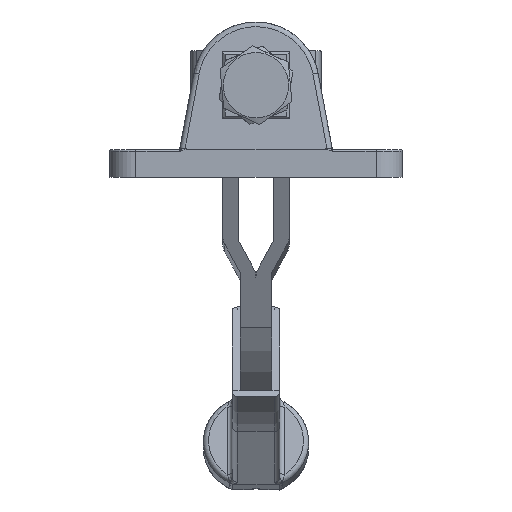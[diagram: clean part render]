
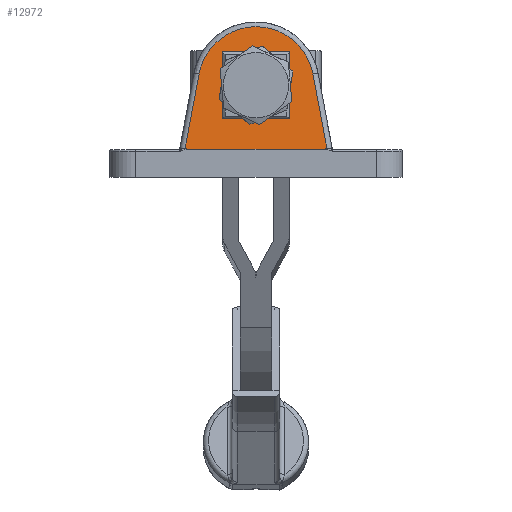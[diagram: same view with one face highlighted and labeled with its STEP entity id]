
A CAD part, left-side view. The second image highlights one B-rep face of the part: STEP entity #12972.
In plain terms, the highlighted planar face has unit normal (-0.996, 0, 0.087).
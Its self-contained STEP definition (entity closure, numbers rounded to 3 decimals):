
#480=FACE_BOUND('',#2201,.T.);
#735=PLANE('',#13909);
#1434=FACE_OUTER_BOUND('',#2200,.T.);
#2200=EDGE_LOOP('',(#11826,#11827,#11828,#11829,#11830,#11831,#11832,#11833));
#2201=EDGE_LOOP('',(#11834,#11835,#11836,#11837));
#3164=B_SPLINE_CURVE_WITH_KNOTS('',3,(#57082,#57083,#57084,#57085,#57086,
#57087,#57088,#57089,#57090,#57091,#57092,#57093,#57094,#57095),
 .UNSPECIFIED.,.F.,.F.,(4,2,2,2,2,2,4),(-0.02,-0.013,
-0.006,-0.003,-0.001,-0.001,
0.),.UNSPECIFIED.);
#3165=B_SPLINE_CURVE_WITH_KNOTS('',3,(#57099,#57100,#57101,#57102,#57103,
#57104,#57105,#57106,#57107,#57108,#57109,#57110,#57111,#57112),
 .UNSPECIFIED.,.F.,.F.,(4,2,2,2,2,2,4),(-0.044,-0.043,
-0.041,-0.038,-0.03,-0.016,
0.),.UNSPECIFIED.);
#3166=B_SPLINE_CURVE_WITH_KNOTS('',3,(#57114,#57115,#57116,#57117,#57118,
#57119,#57120),.UNSPECIFIED.,.F.,.F.,(4,3,4),(0.001,0.001,
0.001),.UNSPECIFIED.);
#3167=B_SPLINE_CURVE_WITH_KNOTS('',3,(#57124,#57125,#57126,#57127,#57128,
#57129,#57130,#57131,#57132,#57133,#57134,#57135,#57136,#57137,#57138,#57139,
#57140,#57141,#57142,#57143,#57144,#57145,#57146,#57147,#57148),
 .UNSPECIFIED.,.F.,.F.,(4,3,3,3,3,3,3,3,4),(1.756,2.103,
2.449,2.795,3.142,3.488,3.834,
4.181,4.527),.UNSPECIFIED.);
#3168=B_SPLINE_CURVE_WITH_KNOTS('',3,(#57151,#57152,#57153,#57154,#57155,
#57156,#57157),.UNSPECIFIED.,.F.,.F.,(4,3,4),(0.,0.,
0.),.UNSPECIFIED.);
#4118=LINE('',#57097,#5079);
#4119=LINE('',#57122,#5080);
#4120=LINE('',#57150,#5081);
#4121=LINE('',#57160,#5082);
#4122=LINE('',#57162,#5083);
#4123=LINE('',#57164,#5084);
#4124=LINE('',#57165,#5085);
#5079=VECTOR('',#16323,1000.);
#5080=VECTOR('',#16324,1000.);
#5081=VECTOR('',#16325,1000.);
#5082=VECTOR('',#16326,1000.);
#5083=VECTOR('',#16327,1000.);
#5084=VECTOR('',#16328,1000.);
#5085=VECTOR('',#16329,1000.);
#6333=VERTEX_POINT('',#57080);
#6334=VERTEX_POINT('',#57081);
#6335=VERTEX_POINT('',#57096);
#6336=VERTEX_POINT('',#57098);
#6337=VERTEX_POINT('',#57113);
#6338=VERTEX_POINT('',#57121);
#6339=VERTEX_POINT('',#57123);
#6340=VERTEX_POINT('',#57149);
#6341=VERTEX_POINT('',#57158);
#6342=VERTEX_POINT('',#57159);
#6343=VERTEX_POINT('',#57161);
#6344=VERTEX_POINT('',#57163);
#8193=EDGE_CURVE('',#6333,#6334,#3164,.T.);
#8194=EDGE_CURVE('',#6334,#6335,#4118,.T.);
#8195=EDGE_CURVE('',#6335,#6336,#3165,.T.);
#8196=EDGE_CURVE('',#6336,#6337,#3166,.T.);
#8197=EDGE_CURVE('',#6337,#6338,#4119,.T.);
#8198=EDGE_CURVE('',#6338,#6339,#3167,.T.);
#8199=EDGE_CURVE('',#6339,#6340,#4120,.T.);
#8200=EDGE_CURVE('',#6340,#6333,#3168,.T.);
#8201=EDGE_CURVE('',#6341,#6342,#4121,.T.);
#8202=EDGE_CURVE('',#6342,#6343,#4122,.T.);
#8203=EDGE_CURVE('',#6343,#6344,#4123,.T.);
#8204=EDGE_CURVE('',#6344,#6341,#4124,.T.);
#11826=ORIENTED_EDGE('',*,*,#8193,.T.);
#11827=ORIENTED_EDGE('',*,*,#8194,.T.);
#11828=ORIENTED_EDGE('',*,*,#8195,.T.);
#11829=ORIENTED_EDGE('',*,*,#8196,.T.);
#11830=ORIENTED_EDGE('',*,*,#8197,.T.);
#11831=ORIENTED_EDGE('',*,*,#8198,.T.);
#11832=ORIENTED_EDGE('',*,*,#8199,.T.);
#11833=ORIENTED_EDGE('',*,*,#8200,.T.);
#11834=ORIENTED_EDGE('',*,*,#8201,.T.);
#11835=ORIENTED_EDGE('',*,*,#8202,.T.);
#11836=ORIENTED_EDGE('',*,*,#8203,.T.);
#11837=ORIENTED_EDGE('',*,*,#8204,.T.);
#12972=ADVANCED_FACE('',(#1434,#480),#735,.F.);
#13909=AXIS2_PLACEMENT_3D('',#57079,#16321,#16322);
#16321=DIRECTION('center_axis',(0.996,0.,-0.087));
#16322=DIRECTION('ref_axis',(-0.087,0.,-0.996));
#16323=DIRECTION('',(0.,-1.,0.));
#16324=DIRECTION('',(0.086,0.184,0.979));
#16325=DIRECTION('',(-0.086,0.184,-0.979));
#16326=DIRECTION('',(0.087,0.,0.996));
#16327=DIRECTION('',(0.,-1.,0.));
#16328=DIRECTION('',(-0.087,0.,-0.996));
#16329=DIRECTION('',(0.,1.,0.));
#57079=CARTESIAN_POINT('Origin',(0.,55.6,5.3));
#57080=CARTESIAN_POINT('',(0.018,41.114,5.504));
#57081=CARTESIAN_POINT('',(0.001,40.922,5.313));
#57082=CARTESIAN_POINT('Ctrl Pts',(0.018,41.114,5.504));
#57083=CARTESIAN_POINT('Ctrl Pts',(0.016,41.066,
5.48));
#57084=CARTESIAN_POINT('Ctrl Pts',(0.013,41.026,
5.448));
#57085=CARTESIAN_POINT('Ctrl Pts',(0.009,40.979,
5.405));
#57086=CARTESIAN_POINT('Ctrl Pts',(0.007,40.961,
5.386));
#57087=CARTESIAN_POINT('Ctrl Pts',(0.005,40.94,
5.36));
#57088=CARTESIAN_POINT('Ctrl Pts',(0.004,40.932,
5.349));
#57089=CARTESIAN_POINT('Ctrl Pts',(0.003,40.925,
5.334));
#57090=CARTESIAN_POINT('Ctrl Pts',(0.003,40.923,
5.33));
#57091=CARTESIAN_POINT('Ctrl Pts',(0.002,40.921,
5.323));
#57092=CARTESIAN_POINT('Ctrl Pts',(0.002,40.921,
5.321));
#57093=CARTESIAN_POINT('Ctrl Pts',(0.001,40.921,
5.317));
#57094=CARTESIAN_POINT('Ctrl Pts',(0.001,40.921,
5.315));
#57095=CARTESIAN_POINT('Ctrl Pts',(0.001,40.922,
5.313));
#57096=CARTESIAN_POINT('',(0.001,14.678,5.313));
#57097=CARTESIAN_POINT('',(0.001,55.6,5.313));
#57098=CARTESIAN_POINT('',(0.018,14.486,5.504));
#57099=CARTESIAN_POINT('Ctrl Pts',(0.001,14.678,
5.313));
#57100=CARTESIAN_POINT('Ctrl Pts',(0.001,14.679,
5.315));
#57101=CARTESIAN_POINT('Ctrl Pts',(0.001,14.679,
5.317));
#57102=CARTESIAN_POINT('Ctrl Pts',(0.002,14.679,
5.321));
#57103=CARTESIAN_POINT('Ctrl Pts',(0.002,14.679,
5.323));
#57104=CARTESIAN_POINT('Ctrl Pts',(0.003,14.677,
5.329));
#57105=CARTESIAN_POINT('Ctrl Pts',(0.003,14.675,
5.334));
#57106=CARTESIAN_POINT('Ctrl Pts',(0.004,14.668,
5.349));
#57107=CARTESIAN_POINT('Ctrl Pts',(0.005,14.66,
5.36));
#57108=CARTESIAN_POINT('Ctrl Pts',(0.007,14.639,
5.385));
#57109=CARTESIAN_POINT('Ctrl Pts',(0.009,14.621,
5.405));
#57110=CARTESIAN_POINT('Ctrl Pts',(0.013,14.575,
5.447));
#57111=CARTESIAN_POINT('Ctrl Pts',(0.016,14.534,
5.48));
#57112=CARTESIAN_POINT('Ctrl Pts',(0.018,14.486,
5.504));
#57113=CARTESIAN_POINT('',(0.024,14.353,5.574));
#57114=CARTESIAN_POINT('Ctrl Pts',(0.018,14.486,
5.504));
#57115=CARTESIAN_POINT('Ctrl Pts',(0.019,14.456,
5.52));
#57116=CARTESIAN_POINT('Ctrl Pts',(0.021,14.426,
5.535));
#57117=CARTESIAN_POINT('Ctrl Pts',(0.022,14.396,
5.551));
#57118=CARTESIAN_POINT('Ctrl Pts',(0.023,14.382,
5.558));
#57119=CARTESIAN_POINT('Ctrl Pts',(0.023,14.367,
5.566));
#57120=CARTESIAN_POINT('Ctrl Pts',(0.024,14.353,
5.574));
#57121=CARTESIAN_POINT('',(1.253,16.989,19.617));
#57122=CARTESIAN_POINT('',(1.245,16.973,19.534));
#57123=CARTESIAN_POINT('',(1.253,38.611,19.617));
#57124=CARTESIAN_POINT('Ctrl Pts',(1.253,16.989,19.617));
#57125=CARTESIAN_POINT('Ctrl Pts',(1.362,17.223,20.865));
#57126=CARTESIAN_POINT('Ctrl Pts',(1.467,17.676,22.071));
#57127=CARTESIAN_POINT('Ctrl Pts',(1.563,18.32,23.166));
#57128=CARTESIAN_POINT('Ctrl Pts',(1.659,18.964,24.26));
#57129=CARTESIAN_POINT('Ctrl Pts',(1.745,19.799,25.242));
#57130=CARTESIAN_POINT('Ctrl Pts',(1.816,20.776,26.053));
#57131=CARTESIAN_POINT('Ctrl Pts',(1.887,21.753,26.863));
#57132=CARTESIAN_POINT('Ctrl Pts',(1.943,22.872,27.503));
#57133=CARTESIAN_POINT('Ctrl Pts',(1.98,24.066,27.934));
#57134=CARTESIAN_POINT('Ctrl Pts',(2.018,25.261,28.365));
#57135=CARTESIAN_POINT('Ctrl Pts',(2.037,26.53,28.587));
#57136=CARTESIAN_POINT('Ctrl Pts',(2.037,27.8,28.587));
#57137=CARTESIAN_POINT('Ctrl Pts',(2.037,29.07,28.587));
#57138=CARTESIAN_POINT('Ctrl Pts',(2.018,30.339,28.365));
#57139=CARTESIAN_POINT('Ctrl Pts',(1.98,31.534,27.934));
#57140=CARTESIAN_POINT('Ctrl Pts',(1.943,32.728,27.503));
#57141=CARTESIAN_POINT('Ctrl Pts',(1.887,33.847,26.863));
#57142=CARTESIAN_POINT('Ctrl Pts',(1.816,34.824,26.053));
#57143=CARTESIAN_POINT('Ctrl Pts',(1.745,35.801,25.242));
#57144=CARTESIAN_POINT('Ctrl Pts',(1.659,36.636,24.26));
#57145=CARTESIAN_POINT('Ctrl Pts',(1.563,37.28,23.166));
#57146=CARTESIAN_POINT('Ctrl Pts',(1.467,37.924,22.071));
#57147=CARTESIAN_POINT('Ctrl Pts',(1.362,38.377,20.865));
#57148=CARTESIAN_POINT('Ctrl Pts',(1.253,38.611,19.617));
#57149=CARTESIAN_POINT('',(0.024,41.247,5.574));
#57150=CARTESIAN_POINT('',(-0.016,41.333,5.12));
#57151=CARTESIAN_POINT('Ctrl Pts',(0.024,41.247,
5.574));
#57152=CARTESIAN_POINT('Ctrl Pts',(0.023,41.218,
5.558));
#57153=CARTESIAN_POINT('Ctrl Pts',(0.021,41.188,
5.542));
#57154=CARTESIAN_POINT('Ctrl Pts',(0.02,41.158,5.527));
#57155=CARTESIAN_POINT('Ctrl Pts',(0.019,41.143,
5.519));
#57156=CARTESIAN_POINT('Ctrl Pts',(0.018,41.129,
5.512));
#57157=CARTESIAN_POINT('Ctrl Pts',(0.018,41.114,
5.504));
#57158=CARTESIAN_POINT('',(0.512,34.15,11.15));
#57159=CARTESIAN_POINT('',(1.623,34.15,23.85));
#57160=CARTESIAN_POINT('',(0.,34.15,5.3));
#57161=CARTESIAN_POINT('',(1.623,21.45,23.85));
#57162=CARTESIAN_POINT('',(1.623,55.6,23.85));
#57163=CARTESIAN_POINT('',(0.512,21.45,11.15));
#57164=CARTESIAN_POINT('',(0.,21.45,5.3));
#57165=CARTESIAN_POINT('',(0.512,55.6,11.15));
